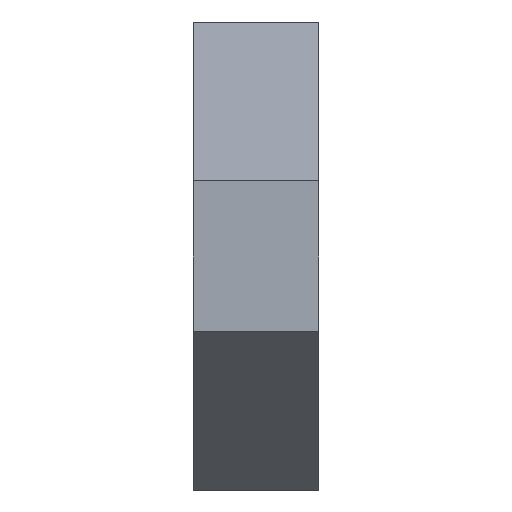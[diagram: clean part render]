
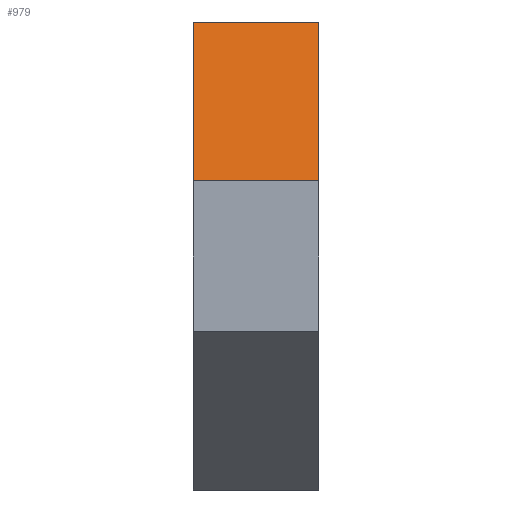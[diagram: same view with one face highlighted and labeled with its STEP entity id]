
A CAD part, front view. The second image highlights one B-rep face of the part: STEP entity #979.
In plain terms, the highlighted planar face has unit normal (0, -0.5, 0.866).
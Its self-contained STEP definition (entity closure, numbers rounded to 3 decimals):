
#72 = PLANE('',#73);
#73 = AXIS2_PLACEMENT_3D('',#74,#75,#76);
#74 = CARTESIAN_POINT('',(-5.,0.,40.649));
#75 = DIRECTION('',(1.,0.,0.));
#76 = DIRECTION('',(0.,0.,1.));
#100 = PLANE('',#101);
#101 = AXIS2_PLACEMENT_3D('',#102,#103,#104);
#102 = CARTESIAN_POINT('',(0.,7.,50.));
#103 = DIRECTION('',(0.,0.,1.));
#104 = DIRECTION('',(0.,-1.,0.));
#126 = PLANE('',#127);
#127 = AXIS2_PLACEMENT_3D('',#128,#129,#130);
#128 = CARTESIAN_POINT('',(0.,0.,40.649));
#129 = DIRECTION('',(1.,0.,0.));
#130 = DIRECTION('',(0.,0.,1.));
#219 = VERTEX_POINT('',#220);
#220 = CARTESIAN_POINT('',(-5.,-7.,50.));
#241 = EDGE_CURVE('',#242,#219,#244,.T.);
#242 = VERTEX_POINT('',#243);
#243 = CARTESIAN_POINT('',(0.,-7.,50.));
#244 = SURFACE_CURVE('',#245,(#249,#256),.PCURVE_S1.);
#245 = LINE('',#246,#247);
#246 = CARTESIAN_POINT('',(0.,-7.,50.));
#247 = VECTOR('',#248,1.);
#248 = DIRECTION('',(-1.,0.,0.));
#249 = PCURVE('',#100,#250);
#250 = DEFINITIONAL_REPRESENTATION('',(#251),#255);
#251 = LINE('',#252,#253);
#252 = CARTESIAN_POINT('',(14.,0.));
#253 = VECTOR('',#254,1.);
#254 = DIRECTION('',(0.,-1.));
#255 = ( GEOMETRIC_REPRESENTATION_CONTEXT(2) 
PARAMETRIC_REPRESENTATION_CONTEXT() REPRESENTATION_CONTEXT('2D SPACE',''
  ) );
#256 = PCURVE('',#257,#262);
#257 = PLANE('',#258);
#258 = AXIS2_PLACEMENT_3D('',#259,#260,#261);
#259 = CARTESIAN_POINT('',(0.,-7.,50.));
#260 = DIRECTION('',(0.,-0.5,0.866));
#261 = DIRECTION('',(0.,-0.866,-0.5));
#262 = DEFINITIONAL_REPRESENTATION('',(#263),#267);
#263 = LINE('',#264,#265);
#264 = CARTESIAN_POINT('',(0.,0.));
#265 = VECTOR('',#266,1.);
#266 = DIRECTION('',(-0.,-1.));
#267 = ( GEOMETRIC_REPRESENTATION_CONTEXT(2) 
PARAMETRIC_REPRESENTATION_CONTEXT() REPRESENTATION_CONTEXT('2D SPACE',''
  ) );
#295 = EDGE_CURVE('',#242,#296,#298,.T.);
#296 = VERTEX_POINT('',#297);
#297 = CARTESIAN_POINT('',(0.,-18.,43.649));
#298 = SURFACE_CURVE('',#299,(#303,#310),.PCURVE_S1.);
#299 = LINE('',#300,#301);
#300 = CARTESIAN_POINT('',(0.,-7.,50.));
#301 = VECTOR('',#302,1.);
#302 = DIRECTION('',(0.,-0.866,-0.5));
#303 = PCURVE('',#126,#304);
#304 = DEFINITIONAL_REPRESENTATION('',(#305),#309);
#305 = LINE('',#306,#307);
#306 = CARTESIAN_POINT('',(9.351,7.));
#307 = VECTOR('',#308,1.);
#308 = DIRECTION('',(-0.5,0.866));
#309 = ( GEOMETRIC_REPRESENTATION_CONTEXT(2) 
PARAMETRIC_REPRESENTATION_CONTEXT() REPRESENTATION_CONTEXT('2D SPACE',''
  ) );
#310 = PCURVE('',#257,#311);
#311 = DEFINITIONAL_REPRESENTATION('',(#312),#316);
#312 = LINE('',#313,#314);
#313 = CARTESIAN_POINT('',(0.,0.));
#314 = VECTOR('',#315,1.);
#315 = DIRECTION('',(1.,0.));
#316 = ( GEOMETRIC_REPRESENTATION_CONTEXT(2) 
PARAMETRIC_REPRESENTATION_CONTEXT() REPRESENTATION_CONTEXT('2D SPACE',''
  ) );
#334 = PLANE('',#335);
#335 = AXIS2_PLACEMENT_3D('',#336,#337,#338);
#336 = CARTESIAN_POINT('',(0.,-18.,43.649));
#337 = DIRECTION('',(-0.,-1.,-0.));
#338 = DIRECTION('',(0.,0.,-1.));
#499 = EDGE_CURVE('',#219,#500,#502,.T.);
#500 = VERTEX_POINT('',#501);
#501 = CARTESIAN_POINT('',(-5.,-18.,43.649));
#502 = SURFACE_CURVE('',#503,(#507,#514),.PCURVE_S1.);
#503 = LINE('',#504,#505);
#504 = CARTESIAN_POINT('',(-5.,-7.,50.));
#505 = VECTOR('',#506,1.);
#506 = DIRECTION('',(0.,-0.866,-0.5));
#507 = PCURVE('',#72,#508);
#508 = DEFINITIONAL_REPRESENTATION('',(#509),#513);
#509 = LINE('',#510,#511);
#510 = CARTESIAN_POINT('',(9.351,7.));
#511 = VECTOR('',#512,1.);
#512 = DIRECTION('',(-0.5,0.866));
#513 = ( GEOMETRIC_REPRESENTATION_CONTEXT(2) 
PARAMETRIC_REPRESENTATION_CONTEXT() REPRESENTATION_CONTEXT('2D SPACE',''
  ) );
#514 = PCURVE('',#257,#515);
#515 = DEFINITIONAL_REPRESENTATION('',(#516),#520);
#516 = LINE('',#517,#518);
#517 = CARTESIAN_POINT('',(-0.,-5.));
#518 = VECTOR('',#519,1.);
#519 = DIRECTION('',(1.,0.));
#520 = ( GEOMETRIC_REPRESENTATION_CONTEXT(2) 
PARAMETRIC_REPRESENTATION_CONTEXT() REPRESENTATION_CONTEXT('2D SPACE',''
  ) );
#979 = ADVANCED_FACE('',(#980),#257,.T.);
#980 = FACE_BOUND('',#981,.T.);
#981 = EDGE_LOOP('',(#982,#983,#984,#1005));
#982 = ORIENTED_EDGE('',*,*,#241,.T.);
#983 = ORIENTED_EDGE('',*,*,#499,.T.);
#984 = ORIENTED_EDGE('',*,*,#985,.F.);
#985 = EDGE_CURVE('',#296,#500,#986,.T.);
#986 = SURFACE_CURVE('',#987,(#991,#998),.PCURVE_S1.);
#987 = LINE('',#988,#989);
#988 = CARTESIAN_POINT('',(0.,-18.,43.649));
#989 = VECTOR('',#990,1.);
#990 = DIRECTION('',(-1.,0.,0.));
#991 = PCURVE('',#257,#992);
#992 = DEFINITIONAL_REPRESENTATION('',(#993),#997);
#993 = LINE('',#994,#995);
#994 = CARTESIAN_POINT('',(12.702,0.));
#995 = VECTOR('',#996,1.);
#996 = DIRECTION('',(-0.,-1.));
#997 = ( GEOMETRIC_REPRESENTATION_CONTEXT(2) 
PARAMETRIC_REPRESENTATION_CONTEXT() REPRESENTATION_CONTEXT('2D SPACE',''
  ) );
#998 = PCURVE('',#334,#999);
#999 = DEFINITIONAL_REPRESENTATION('',(#1000),#1004);
#1000 = LINE('',#1001,#1002);
#1001 = CARTESIAN_POINT('',(0.,0.));
#1002 = VECTOR('',#1003,1.);
#1003 = DIRECTION('',(0.,-1.));
#1004 = ( GEOMETRIC_REPRESENTATION_CONTEXT(2) 
PARAMETRIC_REPRESENTATION_CONTEXT() REPRESENTATION_CONTEXT('2D SPACE',''
  ) );
#1005 = ORIENTED_EDGE('',*,*,#295,.F.);
